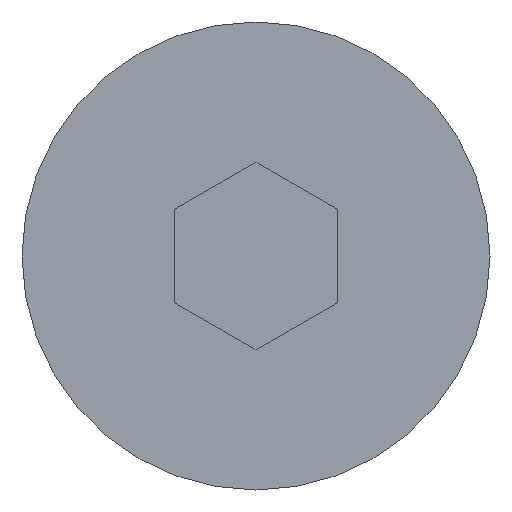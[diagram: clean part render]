
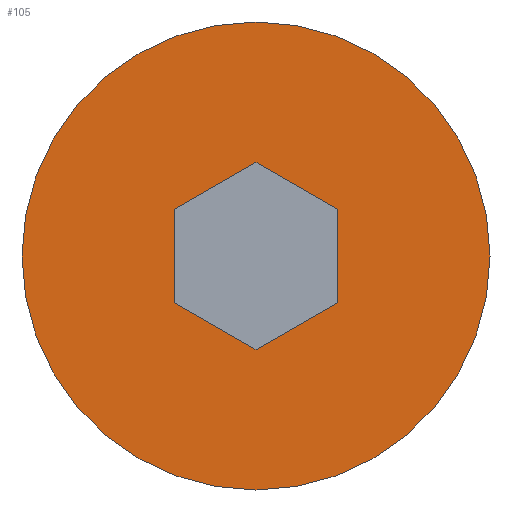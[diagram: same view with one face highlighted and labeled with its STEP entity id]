
A CAD part, left-side view. The second image highlights one B-rep face of the part: STEP entity #105.
In plain terms, the highlighted planar face has unit normal (-1, 0, 0).
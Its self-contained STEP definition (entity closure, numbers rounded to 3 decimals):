
#1 = CARTESIAN_POINT ( 'NONE',  ( 0., 0., 5. ) ) ;
#3 = DIRECTION ( 'NONE',  ( 0., 0.866, 0.5 ) ) ;
#16 = VERTEX_POINT ( 'NONE', #185 ) ;
#33 = CARTESIAN_POINT ( 'NONE',  ( 0., 0., 0. ) ) ;
#42 = EDGE_CURVE ( 'NONE', #481, #149, #436, .T. ) ;
#51 = DIRECTION ( 'NONE',  ( 1., 0., 0. ) ) ;
#60 = ORIENTED_EDGE ( 'NONE', *, *, #492, .F. ) ;
#63 = CARTESIAN_POINT ( 'NONE',  ( 0., -1.732, -1. ) ) ;
#83 = EDGE_CURVE ( 'NONE', #131, #16, #329, .T. ) ;
#97 = LINE ( 'NONE', #403, #393 ) ;
#102 = ORIENTED_EDGE ( 'NONE', *, *, #361, .F. ) ;
#105 = ADVANCED_FACE ( 'NONE', ( #321, #124 ), #332, .F. ) ;
#113 = CARTESIAN_POINT ( 'NONE',  ( 0., -1.732, 1. ) ) ;
#124 = FACE_OUTER_BOUND ( 'NONE', #507, .T. ) ;
#128 = ORIENTED_EDGE ( 'NONE', *, *, #420, .F. ) ;
#131 = VERTEX_POINT ( 'NONE', #113 ) ;
#136 = CARTESIAN_POINT ( 'NONE',  ( 0., 1.732, 1. ) ) ;
#146 = CARTESIAN_POINT ( 'NONE',  ( 0., 0., -2. ) ) ;
#149 = VERTEX_POINT ( 'NONE', #237 ) ;
#164 = DIRECTION ( 'NONE',  ( 0., 0., 1. ) ) ;
#171 = CIRCLE ( 'NONE', #259, 5. ) ;
#173 = VERTEX_POINT ( 'NONE', #63 ) ;
#177 = CARTESIAN_POINT ( 'NONE',  ( 0., -1.732, -1. ) ) ;
#179 = CARTESIAN_POINT ( 'NONE',  ( 0., 0., 0. ) ) ;
#182 = VECTOR ( 'NONE', #355, 1000. ) ;
#185 = CARTESIAN_POINT ( 'NONE',  ( 0., 0., 2. ) ) ;
#203 = VERTEX_POINT ( 'NONE', #457 ) ;
#208 = VECTOR ( 'NONE', #475, 1000. ) ;
#224 = VECTOR ( 'NONE', #462, 1000. ) ;
#235 = VECTOR ( 'NONE', #3, 1000. ) ;
#237 = CARTESIAN_POINT ( 'NONE',  ( 0., 0., -5. ) ) ;
#255 = DIRECTION ( 'NONE',  ( 0., -0.866, 0.5 ) ) ;
#256 = CARTESIAN_POINT ( 'NONE',  ( 0., -1.732, 1. ) ) ;
#259 = AXIS2_PLACEMENT_3D ( 'NONE', #33, #396, #164 ) ;
#277 = EDGE_LOOP ( 'NONE', ( #60, #338, #493, #303, #102, #128 ) ) ;
#283 = LINE ( 'NONE', #371, #182 ) ;
#289 = EDGE_CURVE ( 'NONE', #173, #131, #419, .T. ) ;
#297 = DIRECTION ( 'NONE',  ( 0., 0., -1. ) ) ;
#303 = ORIENTED_EDGE ( 'NONE', *, *, #324, .F. ) ;
#314 = ORIENTED_EDGE ( 'NONE', *, *, #464, .T. ) ;
#321 = FACE_BOUND ( 'NONE', #277, .T. ) ;
#322 = LINE ( 'NONE', #427, #224 ) ;
#324 = EDGE_CURVE ( 'NONE', #362, #173, #97, .T. ) ;
#329 = LINE ( 'NONE', #256, #235 ) ;
#332 = PLANE ( 'NONE',  #447 ) ;
#336 = CARTESIAN_POINT ( 'NONE',  ( 0., 1.732, 1. ) ) ;
#337 = CARTESIAN_POINT ( 'NONE',  ( 0., 0., 0. ) ) ;
#338 = ORIENTED_EDGE ( 'NONE', *, *, #83, .F. ) ;
#339 = DIRECTION ( 'NONE',  ( -1., 0., 0. ) ) ;
#344 = DIRECTION ( 'NONE',  ( 0., 0., 1. ) ) ;
#355 = DIRECTION ( 'NONE',  ( 0., -0.866, -0.5 ) ) ;
#361 = EDGE_CURVE ( 'NONE', #203, #362, #283, .T. ) ;
#362 = VERTEX_POINT ( 'NONE', #146 ) ;
#371 = CARTESIAN_POINT ( 'NONE',  ( 0., 1.732, -1. ) ) ;
#384 = ORIENTED_EDGE ( 'NONE', *, *, #42, .T. ) ;
#388 = AXIS2_PLACEMENT_3D ( 'NONE', #337, #339, #344 ) ;
#393 = VECTOR ( 'NONE', #255, 1000. ) ;
#396 = DIRECTION ( 'NONE',  ( -1., 0., 0. ) ) ;
#399 = VERTEX_POINT ( 'NONE', #336 ) ;
#403 = CARTESIAN_POINT ( 'NONE',  ( 0., 0., -2. ) ) ;
#419 = LINE ( 'NONE', #177, #208 ) ;
#420 = EDGE_CURVE ( 'NONE', #399, #203, #476, .T. ) ;
#427 = CARTESIAN_POINT ( 'NONE',  ( 0., 0., 2. ) ) ;
#436 = CIRCLE ( 'NONE', #388, 5. ) ;
#447 = AXIS2_PLACEMENT_3D ( 'NONE', #179, #51, #297 ) ;
#457 = CARTESIAN_POINT ( 'NONE',  ( 0., 1.732, -1. ) ) ;
#462 = DIRECTION ( 'NONE',  ( 0., 0.866, -0.5 ) ) ;
#464 = EDGE_CURVE ( 'NONE', #149, #481, #171, .T. ) ;
#466 = VECTOR ( 'NONE', #471, 1000. ) ;
#471 = DIRECTION ( 'NONE',  ( 0., 0., -1. ) ) ;
#475 = DIRECTION ( 'NONE',  ( 0., 0., 1. ) ) ;
#476 = LINE ( 'NONE', #136, #466 ) ;
#481 = VERTEX_POINT ( 'NONE', #1 ) ;
#492 = EDGE_CURVE ( 'NONE', #16, #399, #322, .T. ) ;
#493 = ORIENTED_EDGE ( 'NONE', *, *, #289, .F. ) ;
#507 = EDGE_LOOP ( 'NONE', ( #384, #314 ) ) ;
